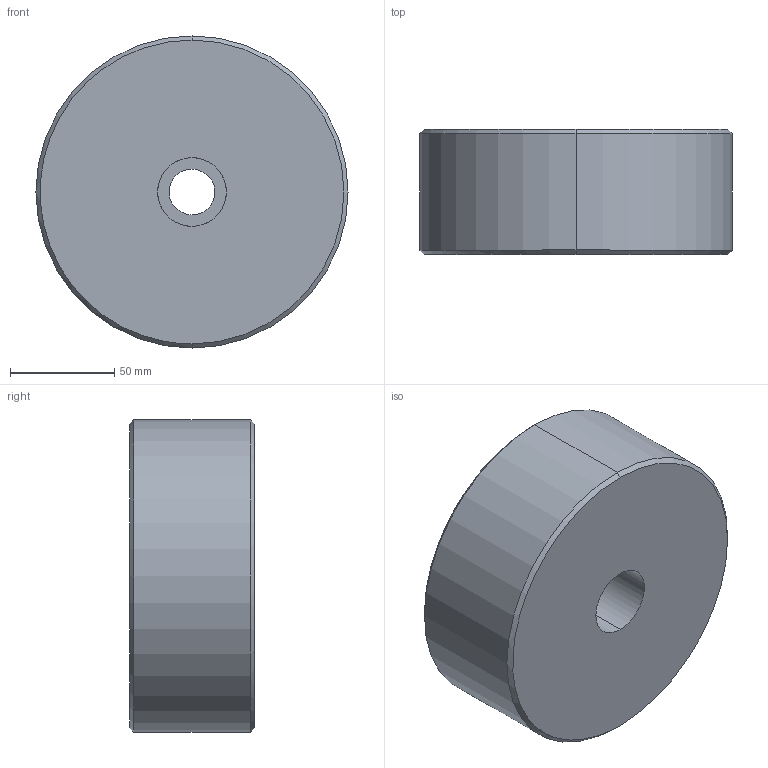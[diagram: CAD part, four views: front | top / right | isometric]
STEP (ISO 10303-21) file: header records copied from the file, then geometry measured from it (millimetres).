
FILE_DESCRIPTION(('CATIA V5 STEP Exchange'),'2;1');
FILE_NAME('C:\Users\Utente\Desktop\IO LAVORO\3D X SITO CF\X 3D SITO CF 27-09-2020\758\758+150+60+15.stp','2020-10-28T19:33:00+00:00',('none'),('none'),'CATIA Version 5 Release 20 GA (IN-10)','CATIA V5 STEP AP203','none');
FILE_SCHEMA(('CONFIG_CONTROL_DESIGN'));
Length unit declared in the file: millimetre
Products named in the file (1): 758+150+60+15
Bounding box: 150 x 60 x 150 mm (x, y, z)
Volume: 1014228.9 mm3; surface area: 67444.4 mm2
Topology: 1 solids, 1 shells, 13 faces, 26 edges, 16 vertices
Faces by surface type: cylinder 6, cone 4, plane 3
Entity records: 521 total; most frequent: CARTESIAN_POINT 217, ORIENTED_EDGE 52, DIRECTION 45, EDGE_CURVE 26, AXIS2_PLACEMENT_3D 23, EDGE_LOOP 16, VERTEX_POINT 16, ADVANCED_FACE 13
